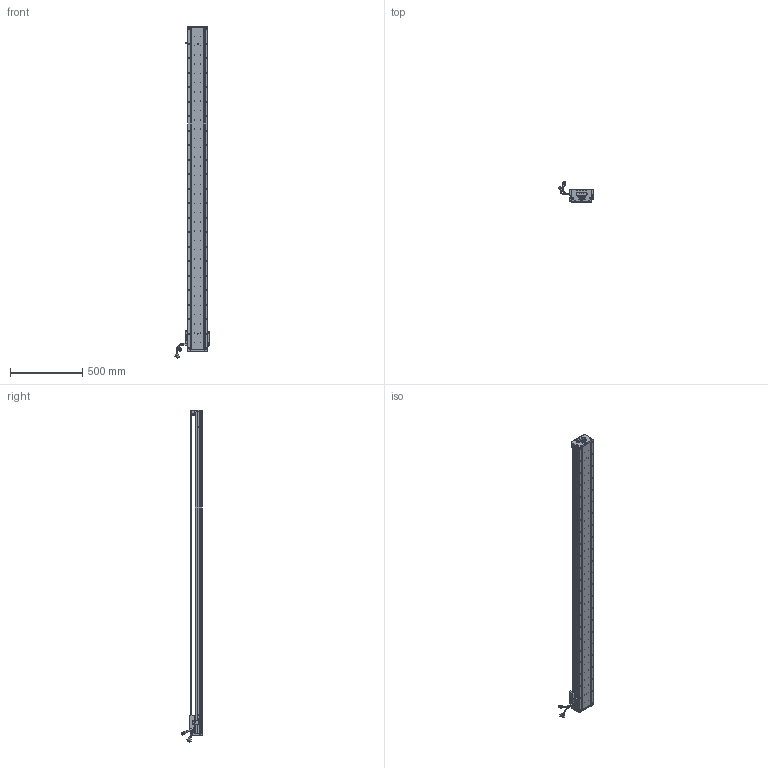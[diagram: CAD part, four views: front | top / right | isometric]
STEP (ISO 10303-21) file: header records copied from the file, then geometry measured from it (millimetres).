
FILE_DESCRIPTION (( 'STEP AP203' ), '1' );
FILE_NAME ('Z1-RY140D-1-L500-B-K.SLDASM_2050.step', '2021-05-17T07:33:54', ( '盈信电脑' ), ( '东莞市道滘镇水果街19号' ), 'SwSTEP 2.0', 'SolidWorks 2016', '' );
FILE_SCHEMA (( 'CONFIG_CONTROL_DESIGN' ));
Length unit declared in the file: millimetre
Products named in the file (36): Z-RY140詩湍狟揤裔; Z1-RY140-L500直线电机模组底座_2050; Z-RY140詩湍奻揤裔; 榋妏寠巭燃_暯_M2_2; Z1-RY140-L500詩湍100mm遵_2050; SCALE-Part-1; 140蚥薯蝶輸; HOLDER0; Z1-RY140圉猾敕臏賑輸(21遴); Z-RY140感应器672光电感应片; SCREW-M1.7-1; SCALE; SCREW-M1.6-3; PBU_SHEET; 140-Z-臏賑輸盄裔(21遴); SHIELDPLATE; 140雄赽晤鎢ん堤盄; HARNESS; SCREW-M1.6; COVER; COVER-Part-1; SEAL-Part-1; SCALE-Part-2; 080黍杅芛假蚾釱21遴; LABEL-Part-1; 覜茼ん672; SCREW-M1.7; HARNESS-Part-1; PSLH080_PSLF2; Z-140詩湍傷裔啣; SCREW-M1.6-2; SEAL; LABEL; SCREW-M1.6-1; Z1-RY140D-1-L500-B-K.SLDASM_2050; HARNESS-Part-2
Assembly tree (41 placements, depth 4):
  Z1-RY140D-1-L500-B-K.SLDASM_2050
    Z1-RY140-L500直线电机模组底座_2050
    Z-RY140感应器672光电感应片
    Z1-RY140圉猾敕臏賑輸(21遴)
    覜茼ん672  x3
    Z1-RY140-L500詩湍100mm遵_2050
    PSLH080_PSLF2
      SCALE
        SCALE-Part-1
        SCALE-Part-2
      HARNESS
        HARNESS-Part-1
        HARNESS-Part-2
      LABEL
        LABEL-Part-1
      COVER
        COVER-Part-1
      SEAL
        SEAL-Part-1
      榋妏寠巭燃_暯_M2_2
      SHIELDPLATE
      SCREW-M1.7
      SCREW-M1.7-1
      PBU_SHEET
      SCREW-M1.6
      SCREW-M1.6-1
      SCREW-M1.6-2
      SCREW-M1.6-3
      HOLDER0
    080黍杅芛假蚾釱21遴
    140-Z-臏賑輸盄裔(21遴)
    Z-140詩湍傷裔啣  x2
    Z-RY140詩湍狟揤裔  x2
    Z-RY140詩湍奻揤裔  x2
    140蚥薯蝶輸  x2
    140雄赽晤鎢ん堤盄
Bounding box: 239.84 x 143.88 x 2290.87 mm (x, y, z)
Volume: 7082690.1 mm3; surface area: 1882872.3 mm2
Topology: 36 solids, 36 shells, 3792 faces, 10294 edges, 6533 vertices
Faces by surface type: cylinder 2008, plane 1316, cone 346, torus 69, bspline 53
Entity records: 119286 total; most frequent: CARTESIAN_POINT 33627, ORIENTED_EDGE 17588, DIRECTION 16278, EDGE_CURVE 8794, AXIS2_PLACEMENT_3D 6016, VERTEX_POINT 5701, VECTOR 4246, LINE 4246
